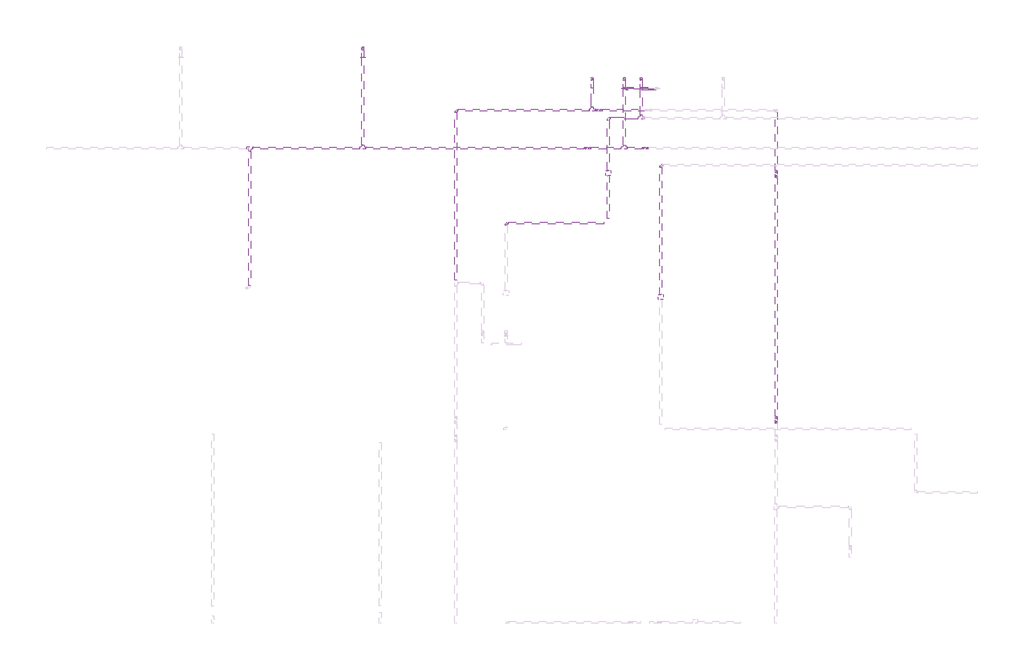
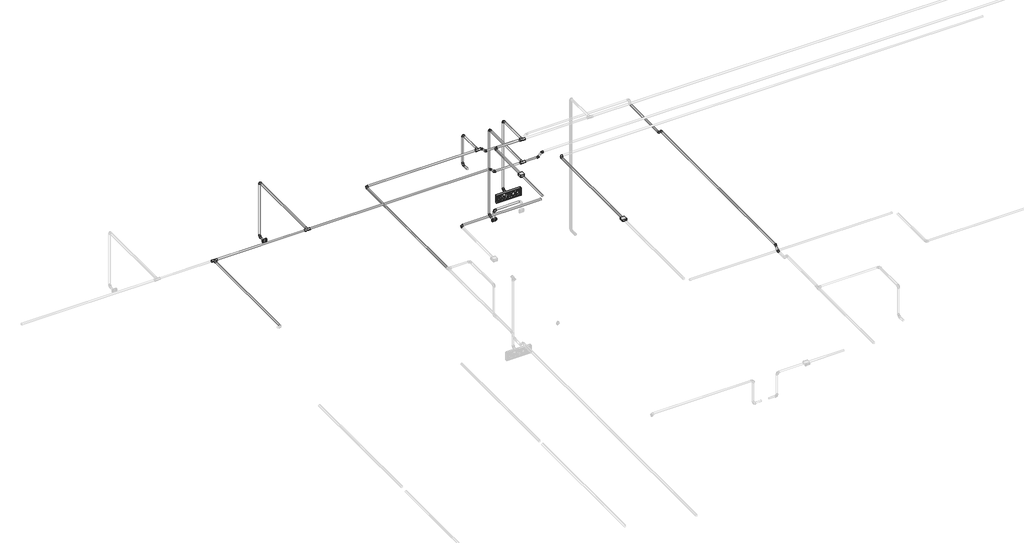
# One storey, part 39 of 40: 35 cable carrier segments, 28 cable carrier fittings, 3 alarms, 2 electric appliances.
"""IFC4 building model written with IfcOpenShell, lengths in millimetres."""

from ifc_helpers import new_model, si_unit, point, frame, frame_2d, origin, place, context, project, spatial, circle_curve, trimmed, segment, composite_curve, outline, extrude, transform, mapped, element, save
from components import alarm_4b7e8fd8, alarm_a2247946, cable_carrier_fitting_69f1a801, cable_carrier_fitting_8122f9af, cable_carrier_fitting_5316ecec, cable_carrier_fitting_8fd13dfc, cable_carrier_fitting_b9f2e8c6, electric_appliance_5961a143

model = new_model("IFC4")

# Units and contexts
model_context = context("Model", 3, world=origin())
ifc_project = project(units=[si_unit("LENGTHUNIT", "METRE", prefix="MILLI")], contexts=[model_context])

# Site, building, storey
site = spatial("IfcSite", under=ifc_project)
building = spatial("IfcBuilding", under=site)
storey = spatial("IfcBuildingStorey", under=building, Name="1 этаж", Elevation=0.0)

# Alarms
placement = place(None, origin())
alarm_shape = alarm_4b7e8fd8(model_context)
element("IfcAlarm", 1, ObjectType="RBZ_Оповещатель_Световой_Рубеж_ОПОП1-R3(грань) : ОПОП 1-R3 \"Выход\"", at=placement, inside=storey, context=model_context, shape_type="MappedRepresentation", body=[
    mapped(alarm_shape, transform((11987.6759979, 21424.6370105, 2300.0), x_axis=(1.0, 0.0, 0.0), y_axis=(0.0, 0.0, 1.0), z_axis=(0.0, -1.0, 0.0))),
])
alarm_2_shape = alarm_a2247946(model_context)
element("IfcAlarm", 2, ObjectType="RBZ_ИзоляторШлейфа_Рубеж_ИЗ-1_прот.R3(плоскость) : ИЗ-1 прот.R3", at=placement, inside=storey, context=model_context, shape_type="MappedRepresentation", body=[
    mapped(alarm_2_shape, transform((11657.6759979, 20573.1370105, 3200.0), x_axis=(1.0, 0.0, 0.0), y_axis=(0.0, 1.0, 0.0), z_axis=(0.0, 0.0, 1.0))),
])
element("IfcAlarm", 3, ObjectType="RBZ_ИзоляторШлейфа_Рубеж_ИЗ-1_прот.R3(плоскость) : ИЗ-1 прот.R3", at=placement, inside=storey, context=model_context, shape_type="MappedRepresentation", body=[
    mapped(alarm_2_shape, transform((12182.1974646, 19334.6370105, 3200.0), x_axis=(1.0, 0.0, 0.0), y_axis=(0.0, 1.0, 0.0), z_axis=(0.0, 0.0, 1.0))),
])

# Cable carrier fittings
cable_carrier_fitting_shape = cable_carrier_fitting_69f1a801(model_context)
element("IfcCableCarrierFitting", 4, ObjectType="ADSK_Поворот_Минимальный размер : Неспецифицируемый", at=placement, inside=storey, context=model_context, shape_type="MappedRepresentation", body=[
    mapped(cable_carrier_fitting_shape, transform((11657.6759979, 21124.6367678, 3189.25), x_axis=(-1.0, 0.0, 0.0), y_axis=(0.0, -1.0, 0.0), z_axis=(0.0, 0.0, 1.0))),
])
element("IfcCableCarrierFitting", 5, ObjectType="ADSK_Поворот_Минимальный размер : Неспецифицируемый", at=placement, inside=storey, context=model_context, shape_type="MappedRepresentation", body=[
    mapped(cable_carrier_fitting_shape, transform((9207.6759979, 21828.8368161, 2488.0911237), x_axis=(0.0, 1.0, 0.0), y_axis=(0.0, 0.0, 1.0), z_axis=(1.0, 0.0, 0.0))),
])
element("IfcCableCarrierFitting", 6, ObjectType="ADSK_Поворот_Минимальный размер : Неспецифицируемый", at=placement, inside=storey, context=model_context, shape_type="MappedRepresentation", body=[
    mapped(cable_carrier_fitting_shape, transform((9207.6759979, 21828.8368161, 3187.0), x_axis=(0.0, 0.0, 1.0), y_axis=(0.0, -1.0, 0.0), z_axis=(1.0, 0.0, 0.0))),
])
element("IfcCableCarrierFitting", 7, ObjectType="ADSK_Поворот_Минимальный размер : Неспецифицируемый", at=placement, inside=storey, context=model_context, shape_type="MappedRepresentation", body=[
    mapped(cable_carrier_fitting_shape, transform((11987.6759979, 21521.8368161, 2300.0), x_axis=(0.0, 1.0, 0.0), y_axis=(0.0, 0.0, 1.0), z_axis=(1.0, 0.0, 0.0))),
])
element("IfcCableCarrierFitting", 8, ObjectType="ADSK_Поворот_Минимальный размер : Неспецифицируемый", at=placement, inside=storey, context=model_context, shape_type="MappedRepresentation", body=[
    mapped(cable_carrier_fitting_shape, transform((10136.5137184, 21203.5340481, 3180.0), x_axis=(-1.0, 0.0, 0.0), y_axis=(0.0, -1.0, 0.0), z_axis=(0.0, 0.0, 1.0))),
])
element("IfcCableCarrierFitting", 9, ObjectType="ADSK_Поворот_Минимальный размер : Неспецифицируемый", at=placement, inside=storey, context=model_context, shape_type="MappedRepresentation", body=[
    mapped(cable_carrier_fitting_shape, transform((11497.6759979, 21521.8368161, 2797.4861504), x_axis=(0.0, 1.0, 0.0), y_axis=(0.0, 0.0, 1.0), z_axis=(1.0, 0.0, 0.0))),
])
element("IfcCableCarrierFitting", 10, ObjectType="ADSK_Поворот_Минимальный размер : Неспецифицируемый", at=placement, inside=storey, context=model_context, shape_type="MappedRepresentation", body=[
    mapped(cable_carrier_fitting_shape, transform((11497.6759979, 21521.8368161, 3180.0), x_axis=(0.0, 0.0, 1.0), y_axis=(0.0, -1.0, 0.0), z_axis=(1.0, 0.0, 0.0))),
])
element("IfcCableCarrierFitting", 11, ObjectType="ADSK_Поворот_Минимальный размер : Неспецифицируемый", at=placement, inside=storey, context=model_context, shape_type="MappedRepresentation", body=[
    mapped(cable_carrier_fitting_shape, transform((11819.9739075, 21421.6370105, 2160.0), x_axis=(0.0, 0.0, 1.0), y_axis=(1.0, 0.0, 0.0), z_axis=(0.0, 1.0, 0.0))),
])
element("IfcCableCarrierFitting", 12, ObjectType="ADSK_Поворот_Минимальный размер : Неспецифицируемый", at=placement, inside=storey, context=model_context, shape_type="MappedRepresentation", body=[
    mapped(cable_carrier_fitting_shape, transform((11819.9739075, 21521.8368161, 2028.0911237), x_axis=(0.0, 1.0, 0.0), y_axis=(0.0, 0.0, 1.0), z_axis=(1.0, 0.0, 0.0))),
])
element("IfcCableCarrierFitting", 13, ObjectType="ADSK_Поворот_Минимальный размер : Неспецифицируемый", at=placement, inside=storey, context=model_context, shape_type="MappedRepresentation", body=[
    mapped(cable_carrier_fitting_shape, transform((11819.9739075, 21521.8368161, 3137.0), x_axis=(0.0, 0.0, 1.0), y_axis=(0.0, -1.0, 0.0), z_axis=(1.0, 0.0, 0.0))),
])
element("IfcCableCarrierFitting", 14, ObjectType="ADSK_Поворот_Минимальный размер : Неспецифицируемый", at=placement, inside=storey, context=model_context, shape_type="MappedRepresentation", body=[
    mapped(cable_carrier_fitting_shape, transform((11987.6759979, 21521.8368161, 3189.353876), x_axis=(0.0, 0.0, 1.0), y_axis=(0.0, -1.0, 0.0), z_axis=(1.0, 0.0, 0.0))),
])
cable_carrier_fitting_2_shape = cable_carrier_fitting_8122f9af(model_context)
element("IfcCableCarrierFitting", 15, ObjectType="ADSK_Поворот_Минимальный размер : Неспецифицируемый", at=placement, inside=storey, context=model_context, shape_type="MappedRepresentation", body=[
    mapped(cable_carrier_fitting_2_shape, transform((11541.1037266, 21203.5340481, 3180.0), x_axis=(1.0, 0.0, 0.0), y_axis=(0.0, 0.0, -1.0), z_axis=(0.0, 1.0, 0.0))),
])
element("IfcCableCarrierFitting", 16, ObjectType="ADSK_Поворот_Минимальный размер : Неспецифицируемый", at=placement, inside=storey, context=model_context, shape_type="MappedRepresentation", body=[
    mapped(cable_carrier_fitting_2_shape, transform((11591.1037266, 21203.5340481, 3130.0), x_axis=(0.7071067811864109, 0.0, -0.7071067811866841), y_axis=(0.7071067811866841, 0.0, 0.7071067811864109), z_axis=(0.0, -1.0, 0.0))),
])
element("IfcCableCarrierFitting", 17, ObjectType="ADSK_Поворот_Минимальный размер : Неспецифицируемый", at=placement, inside=storey, context=model_context, shape_type="MappedRepresentation", body=[
    mapped(cable_carrier_fitting_2_shape, transform((13336.5137184, 20588.0647393, 3130.0), x_axis=(0.0, -1.0, 0.0), y_axis=(0.0, 0.0, 1.0), z_axis=(-1.0, 0.0, 0.0))),
])
element("IfcCableCarrierFitting", 18, ObjectType="ADSK_Поворот_Минимальный размер : Неспецифицируемый", at=placement, inside=storey, context=model_context, shape_type="MappedRepresentation", body=[
    mapped(cable_carrier_fitting_2_shape, transform((13336.5137184, 18081.2092818, 3130.0), x_axis=(0.0, -0.7071067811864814, -0.7071067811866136), y_axis=(0.0, -0.7071067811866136, 0.7071067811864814), z_axis=(-1.0, 0.0, 0.0))),
])
element("IfcCableCarrierFitting", 19, ObjectType="ADSK_Поворот_Минимальный размер : Неспецифицируемый", at=placement, inside=storey, context=model_context, shape_type="MappedRepresentation", body=[
    mapped(cable_carrier_fitting_2_shape, transform((11477.6759979, 20824.6370105, 3137.0), x_axis=(0.707106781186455, 0.0, -0.7071067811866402), y_axis=(0.7071067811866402, 0.0, 0.707106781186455), z_axis=(0.0, -1.0, 0.0))),
])
element("IfcCableCarrierFitting", 20, ObjectType="ADSK_Поворот_Минимальный размер : Неспецифицируемый", at=placement, inside=storey, context=model_context, shape_type="MappedRepresentation", body=[
    mapped(cable_carrier_fitting_2_shape, transform((12007.6759979, 20824.6370105, 3137.0), x_axis=(1.0, 0.0, 0.0), y_axis=(0.0, 0.0, 1.0), z_axis=(0.0, -1.0, 0.0))),
])
element("IfcCableCarrierFitting", 21, ObjectType="ADSK_Поворот_Минимальный размер : Неспецифицируемый", at=placement, inside=storey, context=model_context, shape_type="MappedRepresentation", body=[
    mapped(cable_carrier_fitting_2_shape, transform((11427.6759979, 20824.6370105, 3187.0), x_axis=(-0.7071067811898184, 0.0, 0.7071067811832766), y_axis=(-0.7071067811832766, 0.0, -0.7071067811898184), z_axis=(0.0, -1.0, 0.0))),
])
element("IfcCableCarrierFitting", 22, ObjectType="ADSK_Поворот_Минимальный размер : Неспецифицируемый", at=placement, inside=storey, context=model_context, shape_type="MappedRepresentation", body=[
    mapped(cable_carrier_fitting_2_shape, transform((13336.5137184, 18131.2092818, 3180.0), x_axis=(0.0, 0.707106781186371, 0.7071067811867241), y_axis=(0.0, 0.7071067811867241, -0.707106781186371), z_axis=(-1.0, 0.0, 0.0))),
])
element("IfcCableCarrierFitting", 23, ObjectType="ADSK_Поворот_Минимальный размер : Неспецифицируемый", at=placement, inside=storey, context=model_context, shape_type="MappedRepresentation", body=[
    mapped(cable_carrier_fitting_2_shape, transform((13336.5137184, 20538.0647393, 3180.0), x_axis=(0.0, -0.7071067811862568, 0.7071067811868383), y_axis=(0.0, -0.7071067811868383, -0.7071067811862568), z_axis=(1.0, 0.0, 0.0))),
])
element("IfcCableCarrierFitting", 24, ObjectType="ADSK_Поворот_Минимальный размер : Неспецифицируемый", at=placement, inside=storey, context=model_context, shape_type="MappedRepresentation", body=[
    mapped(cable_carrier_fitting_2_shape, transform((12057.6759979, 20824.6370105, 3187.0), x_axis=(0.707106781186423, 0.0, 0.7071067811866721), y_axis=(0.7071067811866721, 0.0, -0.707106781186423), z_axis=(0.0, 1.0, 0.0))),
])
cable_carrier_fitting_3_shape = cable_carrier_fitting_5316ecec(model_context)
element("IfcCableCarrierFitting", 25, ObjectType="ADSK_Поворот_Минимальный размер : Неспецифицируемый", at=placement, inside=storey, context=model_context, shape_type="MappedRepresentation", body=[
    mapped(cable_carrier_fitting_3_shape, transform((10637.6759514, 20074.6370107, 3189.3), x_axis=(-0.9999999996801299, 0.0, 2.5293086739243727e-05), y_axis=(0.0, -1.0, 1.7463441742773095e-12), z_axis=(2.529308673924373e-05, 1.7463441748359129e-12, 0.99999999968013))),
])
cable_carrier_fitting_4_shape = cable_carrier_fitting_8fd13dfc(model_context)
element("IfcCableCarrierFitting", 26, ObjectType="ADSK_Тройник : ПВХ", at=placement, inside=storey, context=model_context, shape_type="MappedRepresentation", body=[
    mapped(cable_carrier_fitting_4_shape, transform((11987.6759979, 21124.6367649, 3189.353876), x_axis=(-1.0, 0.0, 0.0), y_axis=(0.0, -1.0, 0.0), z_axis=(0.0, 0.0, 1.0))),
])
element("IfcCableCarrierFitting", 27, ObjectType="ADSK_Тройник : ПВХ", at=placement, inside=storey, context=model_context, shape_type="MappedRepresentation", body=[
    mapped(cable_carrier_fitting_4_shape, transform((8077.6759979, 20824.6370105, 3187.0), x_axis=(1.0, 0.0, 0.0), y_axis=(0.0, 1.0, 0.0), z_axis=(0.0, 0.0, 1.0))),
])
element("IfcCableCarrierFitting", 28, ObjectType="ADSK_Тройник : ПВХ", at=placement, inside=storey, context=model_context, shape_type="MappedRepresentation", body=[
    mapped(cable_carrier_fitting_4_shape, transform((9207.6759979, 20824.6370105, 3187.0), x_axis=(-1.0, 0.0, 0.0), y_axis=(0.0, -1.0, 0.0), z_axis=(0.0, 0.0, 1.0))),
])
element("IfcCableCarrierFitting", 29, ObjectType="ADSK_Тройник : ПВХ", at=placement, inside=storey, context=model_context, shape_type="MappedRepresentation", body=[
    mapped(cable_carrier_fitting_4_shape, transform((11497.6759979, 21203.5340481, 3180.0), x_axis=(-1.0, 0.0, 0.0), y_axis=(0.0, -1.0, 0.0), z_axis=(0.0, 0.0, 1.0))),
])
element("IfcCableCarrierFitting", 30, ObjectType="ADSK_Тройник : ПВХ", at=placement, inside=storey, context=model_context, shape_type="MappedRepresentation", body=[
    mapped(cable_carrier_fitting_4_shape, transform((11819.9739075, 20824.6370105, 3137.0), x_axis=(-1.0, 0.0, 0.0), y_axis=(0.0, -1.0, 0.0), z_axis=(0.0, 0.0, 1.0))),
])
cable_carrier_fitting_5_shape = cable_carrier_fitting_b9f2e8c6(model_context)
element("IfcCableCarrierFitting", 31, ObjectType="ADSK_Поворот_Минимальный размер : Неспецифицируемый", at=placement, inside=storey, context=model_context, shape_type="MappedRepresentation", body=[
    mapped(cable_carrier_fitting_5_shape, transform((12182.1974646, 20654.6370125, 3189.25), x_axis=(-0.9999999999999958, 9.254156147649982e-08, 0.0), y_axis=(-9.254156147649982e-08, -0.9999999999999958, 0.0), z_axis=(0.0, 0.0, 1.0))),
])

# Cable carrier segments
element("IfcCableCarrierSegment", 32, ObjectType="Гофрированная труба", at=placement, inside=storey, context=model_context, shape_type="SweptSolid", body=[
    extrude(outline(composite_curve([segment(trimmed(circle_curve(frame_2d((3189.25, 12182.1974646)), 10.0), [point((3189.25, 12172.1974646))], [point((3179.25, 12182.1974646))], False, "CARTESIAN"), True, "CONTINUOUS"), segment(trimmed(circle_curve(frame_2d((3189.25, 12182.1974646)), 10.0), [point((3179.25, 12182.1974646))], [point((3189.25, 12192.1974646))], False, "CARTESIAN"), True, "CONTINUOUS"), segment(trimmed(circle_curve(frame_2d((3189.25, 12182.1974646)), 10.0), [point((3189.25, 12192.1974646))], [point((3199.25, 12182.1974646))], False, "CARTESIAN"), True, "CONTINUOUS"), segment(trimmed(circle_curve(frame_2d((3189.25, 12182.1974646)), 10.0), [point((3199.25, 12182.1974646))], [point((3189.25, 12172.1974646))], False, "CARTESIAN"), True, "CONTINUOUS")], self_intersect=False)), frame((0.0, 19360.6370105, 0.0), z_axis=(0.0, 1.0, 0.0), x_axis=(0.0, 0.0, 1.0)), (0.0, 0.0, 1.0), 1273.0000001),
])
element("IfcCableCarrierSegment", 33, ObjectType="Гофрированная труба", at=placement, inside=storey, context=model_context, shape_type="SweptSolid", body=[
    extrude(outline(composite_curve([segment(trimmed(circle_curve(frame_2d((3189.25, 11657.6759979)), 10.0), [point((3189.25, 11667.6759979))], [point((3199.25, 11657.6759979))], False, "CARTESIAN"), True, "CONTINUOUS"), segment(trimmed(circle_curve(frame_2d((3189.25, 11657.6759979)), 10.0), [point((3199.25, 11657.6759979))], [point((3189.25, 11647.6759979))], False, "CARTESIAN"), True, "CONTINUOUS"), segment(trimmed(circle_curve(frame_2d((3189.25, 11657.6759979)), 10.0), [point((3189.25, 11647.6759979))], [point((3179.25, 11657.6759979))], False, "CARTESIAN"), True, "CONTINUOUS"), segment(trimmed(circle_curve(frame_2d((3189.25, 11657.6759979)), 10.0), [point((3179.25, 11657.6759979))], [point((3189.25, 11667.6759979))], False, "CARTESIAN"), True, "CONTINUOUS")], self_intersect=False)), frame((0.0, 20599.1370105, 0.0), z_axis=(0.0, 1.0, 0.0), x_axis=(0.0, 0.0, 1.0)), (0.0, 0.0, 1.0), 504.4997573),
])
element("IfcCableCarrierSegment", 34, ObjectType="Гофрированная труба", at=placement, inside=storey, context=model_context, shape_type="SweptSolid", body=[
    extrude(outline(composite_curve([segment(trimmed(circle_curve(frame_2d((3189.25, 11657.6759979)), 10.0), [point((3189.25, 11667.6759979))], [point((3199.25, 11657.6759979))], False, "CARTESIAN"), True, "CONTINUOUS"), segment(trimmed(circle_curve(frame_2d((3189.25, 11657.6759979)), 10.0), [point((3199.25, 11657.6759979))], [point((3189.25, 11647.6759979))], False, "CARTESIAN"), True, "CONTINUOUS"), segment(trimmed(circle_curve(frame_2d((3189.25, 11657.6759979)), 10.0), [point((3189.25, 11647.6759979))], [point((3179.25, 11657.6759979))], False, "CARTESIAN"), True, "CONTINUOUS"), segment(trimmed(circle_curve(frame_2d((3189.25, 11657.6759979)), 10.0), [point((3179.25, 11657.6759979))], [point((3189.25, 11667.6759979))], False, "CARTESIAN"), True, "CONTINUOUS")], self_intersect=False)), frame((0.0, 20121.1370105, 0.0), z_axis=(0.0, 1.0, 0.0), x_axis=(0.0, 0.0, 1.0)), (0.0, 0.0, 1.0), 426.0),
])
element("IfcCableCarrierSegment", 35, ObjectType="Гофрированная труба", at=placement, inside=storey, context=model_context, shape_type="SweptSolid", body=[
    extrude(outline(composite_curve([segment(trimmed(circle_curve(frame_2d((21124.6367649, 3189.353876)), 10.0), [point((21114.6367649, 3189.353876))], [point((21124.6367649, 3199.353876))], False, "CARTESIAN"), True, "CONTINUOUS"), segment(trimmed(circle_curve(frame_2d((21124.6367649, 3189.353876)), 10.0), [point((21124.6367649, 3199.353876))], [point((21134.6367649, 3189.353876))], False, "CARTESIAN"), True, "CONTINUOUS"), segment(trimmed(circle_curve(frame_2d((21124.6367649, 3189.353876)), 10.0), [point((21134.6367649, 3189.353876))], [point((21124.6367649, 3179.353876))], False, "CARTESIAN"), True, "CONTINUOUS"), segment(trimmed(circle_curve(frame_2d((21124.6367649, 3189.353876)), 10.0), [point((21124.6367649, 3179.353876))], [point((21114.6367649, 3189.353876))], False, "CARTESIAN"), True, "CONTINUOUS")], self_intersect=False)), frame((11678.6759979, 0.0, 0.0), z_axis=(1.0, 0.0, 0.0), x_axis=(0.0, 1.0, 0.0)), (0.0, 0.0, 1.0), 279.0),
])
element("IfcCableCarrierSegment", 36, ObjectType="Гофрированная труба", at=placement, inside=storey, context=model_context, shape_type="SweptSolid", body=[
    extrude(outline(composite_curve([segment(trimmed(circle_curve(frame_2d((2e-07, -10.0)), 10.0000002), [point((-10.0, -10.0))], [point((0.0, 0.0))], False, "CARTESIAN"), True, "CONTINUOUS"), segment(trimmed(circle_curve(frame_2d((2e-07, -10.0)), 10.0), [point((0.0, 0.0))], [point((10.0, -10.0))], False, "CARTESIAN"), True, "CONTINUOUS"), segment(trimmed(circle_curve(frame_2d((2e-07, -10.0)), 9.9999998), [point((10.0, -10.0))], [point((0.0, -20.0))], False, "CARTESIAN"), True, "CONTINUOUS"), segment(trimmed(circle_curve(frame_2d((2e-07, -10.0)), 10.0), [point((0.0, -20.0))], [point((-10.0, -10.0))], False, "CARTESIAN"), True, "CONTINUOUS")], self_intersect=False)), frame((11611.175745, 20074.6370105, 3179.2753772), z_axis=(-0.99999999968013, 0.0, 2.5293086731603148e-05), x_axis=(0.0, 1.0, 0.0)), (0.0, 0.0, 1.0), 952.5000455),
])
element("IfcCableCarrierSegment", 37, ObjectType="Гофрированная труба", at=placement, inside=storey, context=model_context, shape_type="SweptSolid", body=[
    extrude(outline(composite_curve([segment(trimmed(circle_curve(frame_2d((3187.0, 8077.6759979)), 10.0), [point((3187.0, 8067.6759979))], [point((3177.0, 8077.6759979))], False, "CARTESIAN"), True, "CONTINUOUS"), segment(trimmed(circle_curve(frame_2d((3187.0, 8077.6759979)), 10.0), [point((3177.0, 8077.6759979))], [point((3187.0, 8087.6759979))], False, "CARTESIAN"), True, "CONTINUOUS"), segment(trimmed(circle_curve(frame_2d((3187.0, 8077.6759979)), 10.0), [point((3187.0, 8087.6759979))], [point((3197.0, 8077.6759979))], False, "CARTESIAN"), True, "CONTINUOUS"), segment(trimmed(circle_curve(frame_2d((3187.0, 8077.6759979)), 10.0), [point((3197.0, 8077.6759979))], [point((3187.0, 8067.6759979))], False, "CARTESIAN"), True, "CONTINUOUS")], self_intersect=False)), frame((0.0, 19447.2217133, 0.0), z_axis=(0.0, 1.0, 0.0), x_axis=(0.0, 0.0, 1.0)), (0.0, 0.0, 1.0), 1347.4152973),
])
element("IfcCableCarrierSegment", 38, ObjectType="Гофрированная труба", at=placement, inside=storey, context=model_context, shape_type="SweptSolid", body=[
    extrude(outline(composite_curve([segment(trimmed(circle_curve(frame_2d((3187.0, 9207.6759979)), 10.0), [point((3187.0, 9217.6759979))], [point((3197.0, 9207.6759979))], False, "CARTESIAN"), True, "CONTINUOUS"), segment(trimmed(circle_curve(frame_2d((3187.0, 9207.6759979)), 10.0), [point((3197.0, 9207.6759979))], [point((3187.0, 9197.6759979))], False, "CARTESIAN"), True, "CONTINUOUS"), segment(trimmed(circle_curve(frame_2d((3187.0, 9207.6759979)), 10.0), [point((3187.0, 9197.6759979))], [point((3177.0, 9207.6759979))], False, "CARTESIAN"), True, "CONTINUOUS"), segment(trimmed(circle_curve(frame_2d((3187.0, 9207.6759979)), 10.0), [point((3177.0, 9207.6759979))], [point((3187.0, 9217.6759979))], False, "CARTESIAN"), True, "CONTINUOUS")], self_intersect=False)), frame((0.0, 20854.6370105, 0.0), z_axis=(0.0, 1.0, 0.0), x_axis=(0.0, 0.0, 1.0)), (0.0, 0.0, 1.0), 953.1998056),
])
element("IfcCableCarrierSegment", 39, ObjectType="Гофрированная труба", at=placement, inside=storey, context=model_context, shape_type="SweptSolid", body=[
    extrude(outline(composite_curve([segment(trimmed(circle_curve(frame_2d((2488.0911237, 9207.6759979)), 10.0), [point((2488.0911237, 9217.6759979))], [point((2498.0911237, 9207.6759979))], False, "CARTESIAN"), True, "CONTINUOUS"), segment(trimmed(circle_curve(frame_2d((2488.0911237, 9207.6759979)), 10.0), [point((2498.0911237, 9207.6759979))], [point((2488.0911237, 9197.6759979))], False, "CARTESIAN"), True, "CONTINUOUS"), segment(trimmed(circle_curve(frame_2d((2488.0911237, 9207.6759979)), 10.0), [point((2488.0911237, 9197.6759979))], [point((2478.0911237, 9207.6759979))], False, "CARTESIAN"), True, "CONTINUOUS"), segment(trimmed(circle_curve(frame_2d((2488.0911237, 9207.6759979)), 10.0), [point((2478.0911237, 9207.6759979))], [point((2488.0911237, 9217.6759979))], False, "CARTESIAN"), True, "CONTINUOUS")], self_intersect=False)), frame((0.0, 21731.6370105, 0.0), z_axis=(0.0, 1.0, 0.0), x_axis=(0.0, 0.0, 1.0)), (0.0, 0.0, 1.0), 76.1998056),
])
element("IfcCableCarrierSegment", 40, ObjectType="Гофрированная труба", at=placement, inside=storey, context=model_context, shape_type="SweptSolid", body=[
    extrude(outline(composite_curve([segment(trimmed(circle_curve(frame_2d((9207.6759979, 21828.8368161)), 10.0), [point((9197.6759979, 21828.8368161))], [point((9207.6759979, 21838.8368161))], False, "CARTESIAN"), True, "CONTINUOUS"), segment(trimmed(circle_curve(frame_2d((9207.6759979, 21828.8368161)), 10.0), [point((9207.6759979, 21838.8368161))], [point((9217.6759979, 21828.8368161))], False, "CARTESIAN"), True, "CONTINUOUS"), segment(trimmed(circle_curve(frame_2d((9207.6759979, 21828.8368161)), 10.0), [point((9217.6759979, 21828.8368161))], [point((9207.6759979, 21818.8368161))], False, "CARTESIAN"), True, "CONTINUOUS"), segment(trimmed(circle_curve(frame_2d((9207.6759979, 21828.8368161)), 10.0), [point((9207.6759979, 21818.8368161))], [point((9197.6759979, 21828.8368161))], False, "CARTESIAN"), True, "CONTINUOUS")], self_intersect=False)), frame((0.0, 0.0, 2509.0911237), z_axis=(0.0, 0.0, 1.0), x_axis=(1.0, 0.0, 0.0)), (0.0, 0.0, 1.0), 656.9088763),
])
element("IfcCableCarrierSegment", 41, ObjectType="Гофрированная труба", at=placement, inside=storey, context=model_context, shape_type="SweptSolid", body=[
    extrude(outline(composite_curve([segment(trimmed(circle_curve(frame_2d((20824.6370105, 3187.0)), 10.0), [point((20814.6370105, 3187.0))], [point((20824.6370105, 3197.0))], False, "CARTESIAN"), True, "CONTINUOUS"), segment(trimmed(circle_curve(frame_2d((20824.6370105, 3187.0)), 10.0), [point((20824.6370105, 3197.0))], [point((20834.6370105, 3187.0))], False, "CARTESIAN"), True, "CONTINUOUS"), segment(trimmed(circle_curve(frame_2d((20824.6370105, 3187.0)), 10.0), [point((20834.6370105, 3187.0))], [point((20824.6370105, 3177.0))], False, "CARTESIAN"), True, "CONTINUOUS"), segment(trimmed(circle_curve(frame_2d((20824.6370105, 3187.0)), 10.0), [point((20824.6370105, 3177.0))], [point((20814.6370105, 3187.0))], False, "CARTESIAN"), True, "CONTINUOUS")], self_intersect=False)), frame((8107.6759979, 0.0, 0.0), z_axis=(1.0, 0.0, 0.0), x_axis=(0.0, 1.0, 0.0)), (0.0, 0.0, 1.0), 1070.0),
])
element("IfcCableCarrierSegment", 42, ObjectType="Гофрированная труба", at=placement, inside=storey, context=model_context, shape_type="SweptSolid", body=[
    extrude(outline(composite_curve([segment(trimmed(circle_curve(frame_2d((3189.353876, 11987.6759979)), 10.0), [point((3189.353876, 11977.6759979))], [point((3179.353876, 11987.6759979))], False, "CARTESIAN"), True, "CONTINUOUS"), segment(trimmed(circle_curve(frame_2d((3189.353876, 11987.6759979)), 10.0), [point((3179.353876, 11987.6759979))], [point((3189.353876, 11997.6759979))], False, "CARTESIAN"), True, "CONTINUOUS"), segment(trimmed(circle_curve(frame_2d((3189.353876, 11987.6759979)), 10.0), [point((3189.353876, 11997.6759979))], [point((3199.353876, 11987.6759979))], False, "CARTESIAN"), True, "CONTINUOUS"), segment(trimmed(circle_curve(frame_2d((3189.353876, 11987.6759979)), 10.0), [point((3199.353876, 11987.6759979))], [point((3189.353876, 11977.6759979))], False, "CARTESIAN"), True, "CONTINUOUS")], self_intersect=False)), frame((0.0, 21154.6367649, 0.0), z_axis=(0.0, 1.0, 0.0), x_axis=(0.0, 0.0, 1.0)), (0.0, 0.0, 1.0), 346.2000512),
])
element("IfcCableCarrierSegment", 43, ObjectType="Гофрированная труба", at=placement, inside=storey, context=model_context, shape_type="SweptSolid", body=[
    extrude(outline(composite_curve([segment(trimmed(circle_curve(frame_2d((2300.0, 11987.6759979)), 10.0), [point((2300.0, 11997.6759979))], [point((2310.0, 11987.6759979))], False, "CARTESIAN"), True, "CONTINUOUS"), segment(trimmed(circle_curve(frame_2d((2300.0, 11987.6759979)), 10.0), [point((2310.0, 11987.6759979))], [point((2300.0, 11977.6759979))], False, "CARTESIAN"), True, "CONTINUOUS"), segment(trimmed(circle_curve(frame_2d((2300.0, 11987.6759979)), 10.0), [point((2300.0, 11977.6759979))], [point((2290.0, 11987.6759979))], False, "CARTESIAN"), True, "CONTINUOUS"), segment(trimmed(circle_curve(frame_2d((2300.0, 11987.6759979)), 10.0), [point((2290.0, 11987.6759979))], [point((2300.0, 11997.6759979))], False, "CARTESIAN"), True, "CONTINUOUS")], self_intersect=False)), frame((0.0, 21424.6370105, 0.0), z_axis=(0.0, 1.0, 0.0), x_axis=(0.0, 0.0, 1.0)), (0.0, 0.0, 1.0), 76.1998056),
])
element("IfcCableCarrierSegment", 44, ObjectType="Гофрированная труба", at=placement, inside=storey, context=model_context, shape_type="SweptSolid", body=[
    extrude(outline(composite_curve([segment(trimmed(circle_curve(frame_2d((11987.6759979, 21521.8368161)), 10.0), [point((11977.6759979, 21521.8368161))], [point((11987.6759979, 21531.8368161))], False, "CARTESIAN"), True, "CONTINUOUS"), segment(trimmed(circle_curve(frame_2d((11987.6759979, 21521.8368161)), 10.0), [point((11987.6759979, 21531.8368161))], [point((11997.6759979, 21521.8368161))], False, "CARTESIAN"), True, "CONTINUOUS"), segment(trimmed(circle_curve(frame_2d((11987.6759979, 21521.8368161)), 10.0), [point((11997.6759979, 21521.8368161))], [point((11987.6759979, 21511.8368161))], False, "CARTESIAN"), True, "CONTINUOUS"), segment(trimmed(circle_curve(frame_2d((11987.6759979, 21521.8368161)), 10.0), [point((11987.6759979, 21511.8368161))], [point((11977.6759979, 21521.8368161))], False, "CARTESIAN"), True, "CONTINUOUS")], self_intersect=False)), frame((0.0, 0.0, 2321.0), z_axis=(0.0, 0.0, 1.0), x_axis=(1.0, 0.0, 0.0)), (0.0, 0.0, 1.0), 847.353876),
])
element("IfcCableCarrierSegment", 45, ObjectType="Гофрированная труба", at=placement, inside=storey, context=model_context, shape_type="SweptSolid", body=[
    extrude(outline(composite_curve([segment(trimmed(circle_curve(frame_2d((20824.6370105, 3137.0)), 10.0), [point((20814.6370105, 3137.0))], [point((20824.6370105, 3147.0))], False, "CARTESIAN"), True, "CONTINUOUS"), segment(trimmed(circle_curve(frame_2d((20824.6370105, 3137.0)), 10.0), [point((20824.6370105, 3147.0))], [point((20834.6370105, 3137.0))], False, "CARTESIAN"), True, "CONTINUOUS"), segment(trimmed(circle_curve(frame_2d((20824.6370105, 3137.0)), 10.0), [point((20834.6370105, 3137.0))], [point((20824.6370105, 3127.0))], False, "CARTESIAN"), True, "CONTINUOUS"), segment(trimmed(circle_curve(frame_2d((20824.6370105, 3137.0)), 10.0), [point((20824.6370105, 3127.0))], [point((20814.6370105, 3137.0))], False, "CARTESIAN"), True, "CONTINUOUS")], self_intersect=False)), frame((11849.9739075, 0.0, 0.0), z_axis=(1.0, 0.0, 0.0), x_axis=(0.0, 1.0, 0.0)), (0.0, 0.0, 1.0), 148.4178191),
])
element("IfcCableCarrierSegment", 46, ObjectType="Гофрированная труба", at=placement, inside=storey, context=model_context, shape_type="SweptSolid", body=[
    extrude(outline(composite_curve([segment(trimmed(circle_curve(frame_2d((3180.0, 10136.5137184)), 10.0), [point((3180.0, 10146.5137184))], [point((3190.0, 10136.5137184))], False, "CARTESIAN"), True, "CONTINUOUS"), segment(trimmed(circle_curve(frame_2d((3180.0, 10136.5137184)), 10.0), [point((3190.0, 10136.5137184))], [point((3180.0, 10126.5137184))], False, "CARTESIAN"), True, "CONTINUOUS"), segment(trimmed(circle_curve(frame_2d((3180.0, 10136.5137184)), 10.0), [point((3180.0, 10126.5137184))], [point((3170.0, 10136.5137184))], False, "CARTESIAN"), True, "CONTINUOUS"), segment(trimmed(circle_curve(frame_2d((3180.0, 10136.5137184)), 10.0), [point((3170.0, 10136.5137184))], [point((3180.0, 10146.5137184))], False, "CARTESIAN"), True, "CONTINUOUS")], self_intersect=False)), frame((0.0, 19504.6370105, 0.0), z_axis=(0.0, 1.0, 0.0), x_axis=(0.0, 0.0, 1.0)), (0.0, 0.0, 1.0), 1677.8970376),
])
element("IfcCableCarrierSegment", 47, ObjectType="Гофрированная труба", at=placement, inside=storey, context=model_context, shape_type="SweptSolid", body=[
    extrude(outline(composite_curve([segment(trimmed(circle_curve(frame_2d((21203.5340481, 3130.0)), 10.0), [point((21193.5340481, 3130.0))], [point((21203.5340481, 3140.0))], False, "CARTESIAN"), True, "CONTINUOUS"), segment(trimmed(circle_curve(frame_2d((21203.5340481, 3130.0)), 10.0), [point((21203.5340481, 3140.0))], [point((21213.5340481, 3130.0))], False, "CARTESIAN"), True, "CONTINUOUS"), segment(trimmed(circle_curve(frame_2d((21203.5340481, 3130.0)), 10.0), [point((21213.5340481, 3130.0))], [point((21203.5340481, 3120.0))], False, "CARTESIAN"), True, "CONTINUOUS"), segment(trimmed(circle_curve(frame_2d((21203.5340481, 3130.0)), 10.0), [point((21203.5340481, 3120.0))], [point((21193.5340481, 3130.0))], False, "CARTESIAN"), True, "CONTINUOUS")], self_intersect=False)), frame((11600.3879979, 0.0, 0.0), z_axis=(1.0, 0.0, 0.0), x_axis=(0.0, 1.0, 0.0)), (0.0, 0.0, 1.0), 429.4394838),
])
element("IfcCableCarrierSegment", 48, ObjectType="Гофрированная труба", at=placement, inside=storey, context=model_context, shape_type="SweptSolid", body=[
    extrude(outline(composite_curve([segment(trimmed(circle_curve(frame_2d((3180.0, 11497.6759979)), 10.0), [point((3180.0, 11507.6759979))], [point((3190.0, 11497.6759979))], False, "CARTESIAN"), True, "CONTINUOUS"), segment(trimmed(circle_curve(frame_2d((3180.0, 11497.6759979)), 10.0), [point((3190.0, 11497.6759979))], [point((3180.0, 11487.6759979))], False, "CARTESIAN"), True, "CONTINUOUS"), segment(trimmed(circle_curve(frame_2d((3180.0, 11497.6759979)), 10.0), [point((3180.0, 11487.6759979))], [point((3170.0, 11497.6759979))], False, "CARTESIAN"), True, "CONTINUOUS"), segment(trimmed(circle_curve(frame_2d((3180.0, 11497.6759979)), 10.0), [point((3170.0, 11497.6759979))], [point((3180.0, 11507.6759979))], False, "CARTESIAN"), True, "CONTINUOUS")], self_intersect=False)), frame((0.0, 21233.5340481, 0.0), z_axis=(0.0, 1.0, 0.0), x_axis=(0.0, 0.0, 1.0)), (0.0, 0.0, 1.0), 267.302768),
])
element("IfcCableCarrierSegment", 49, ObjectType="Гофрированная труба", at=placement, inside=storey, context=model_context, shape_type="SweptSolid", body=[
    extrude(outline(composite_curve([segment(trimmed(circle_curve(frame_2d((2797.4861504, 11497.6759979)), 10.0), [point((2797.4861504, 11507.6759979))], [point((2807.4861504, 11497.6759979))], False, "CARTESIAN"), True, "CONTINUOUS"), segment(trimmed(circle_curve(frame_2d((2797.4861504, 11497.6759979)), 10.0), [point((2807.4861504, 11497.6759979))], [point((2797.4861504, 11487.6759979))], False, "CARTESIAN"), True, "CONTINUOUS"), segment(trimmed(circle_curve(frame_2d((2797.4861504, 11497.6759979)), 10.0), [point((2797.4861504, 11487.6759979))], [point((2787.4861504, 11497.6759979))], False, "CARTESIAN"), True, "CONTINUOUS"), segment(trimmed(circle_curve(frame_2d((2797.4861504, 11497.6759979)), 10.0), [point((2787.4861504, 11497.6759979))], [point((2797.4861504, 11507.6759979))], False, "CARTESIAN"), True, "CONTINUOUS")], self_intersect=False)), frame((0.0, 21424.6370105, 0.0), z_axis=(0.0, 1.0, 0.0), x_axis=(0.0, 0.0, 1.0)), (0.0, 0.0, 1.0), 76.1998056),
])
element("IfcCableCarrierSegment", 50, ObjectType="Гофрированная труба", at=placement, inside=storey, context=model_context, shape_type="SweptSolid", body=[
    extrude(outline(composite_curve([segment(trimmed(circle_curve(frame_2d((11497.6759979, 21521.8368161)), 10.0), [point((11487.6759979, 21521.8368161))], [point((11497.6759979, 21531.8368161))], False, "CARTESIAN"), True, "CONTINUOUS"), segment(trimmed(circle_curve(frame_2d((11497.6759979, 21521.8368161)), 10.0), [point((11497.6759979, 21531.8368161))], [point((11507.6759979, 21521.8368161))], False, "CARTESIAN"), True, "CONTINUOUS"), segment(trimmed(circle_curve(frame_2d((11497.6759979, 21521.8368161)), 10.0), [point((11507.6759979, 21521.8368161))], [point((11497.6759979, 21511.8368161))], False, "CARTESIAN"), True, "CONTINUOUS"), segment(trimmed(circle_curve(frame_2d((11497.6759979, 21521.8368161)), 10.0), [point((11497.6759979, 21511.8368161))], [point((11487.6759979, 21521.8368161))], False, "CARTESIAN"), True, "CONTINUOUS")], self_intersect=False)), frame((0.0, 0.0, 2818.4861504), z_axis=(0.0, 0.0, 1.0), x_axis=(1.0, 0.0, 0.0)), (0.0, 0.0, 1.0), 340.5138496),
])
element("IfcCableCarrierSegment", 51, ObjectType="Гофрированная труба", at=placement, inside=storey, context=model_context, shape_type="SweptSolid", body=[
    extrude(outline(composite_curve([segment(trimmed(circle_curve(frame_2d((21203.5340481, 3180.0)), 10.0), [point((21193.5340481, 3180.0))], [point((21203.5340481, 3190.0))], False, "CARTESIAN"), True, "CONTINUOUS"), segment(trimmed(circle_curve(frame_2d((21203.5340481, 3180.0)), 10.0), [point((21203.5340481, 3190.0))], [point((21213.5340481, 3180.0))], False, "CARTESIAN"), True, "CONTINUOUS"), segment(trimmed(circle_curve(frame_2d((21203.5340481, 3180.0)), 10.0), [point((21213.5340481, 3180.0))], [point((21203.5340481, 3170.0))], False, "CARTESIAN"), True, "CONTINUOUS"), segment(trimmed(circle_curve(frame_2d((21203.5340481, 3180.0)), 10.0), [point((21203.5340481, 3170.0))], [point((21193.5340481, 3180.0))], False, "CARTESIAN"), True, "CONTINUOUS")], self_intersect=False)), frame((10157.5137184, 0.0, 0.0), z_axis=(1.0, 0.0, 0.0), x_axis=(0.0, 1.0, 0.0)), (0.0, 0.0, 1.0), 1310.1622795),
])
element("IfcCableCarrierSegment", 52, ObjectType="Гофрированная труба", at=placement, inside=storey, context=model_context, shape_type="SweptSolid", body=[
    extrude(outline(composite_curve([segment(trimmed(circle_curve(frame_2d((3130.0, 13336.5137184)), 10.0), [point((3130.0, 13346.5137184))], [point((3140.0, 13336.5137184))], False, "CARTESIAN"), True, "CONTINUOUS"), segment(trimmed(circle_curve(frame_2d((3130.0, 13336.5137184)), 10.0), [point((3140.0, 13336.5137184))], [point((3130.0, 13326.5137184))], False, "CARTESIAN"), True, "CONTINUOUS"), segment(trimmed(circle_curve(frame_2d((3130.0, 13336.5137184)), 10.0), [point((3130.0, 13326.5137184))], [point((3120.0, 13336.5137184))], False, "CARTESIAN"), True, "CONTINUOUS"), segment(trimmed(circle_curve(frame_2d((3130.0, 13336.5137184)), 10.0), [point((3120.0, 13336.5137184))], [point((3130.0, 13346.5137184))], False, "CARTESIAN"), True, "CONTINUOUS")], self_intersect=False)), frame((0.0, 20597.3490105, 0.0), z_axis=(0.0, 1.0, 0.0), x_axis=(0.0, 0.0, 1.0)), (0.0, 0.0, 1.0), 585.1850376),
])
element("IfcCableCarrierSegment", 53, ObjectType="Гофрированная труба", at=placement, inside=storey, context=model_context, shape_type="SweptSolid", body=[
    extrude(outline(composite_curve([segment(trimmed(circle_curve(frame_2d((0.0, 10.0)), 10.0), [point((-10.0, 10.0))], [point((0.0, 20.0))], False, "CARTESIAN"), True, "CONTINUOUS"), segment(trimmed(circle_curve(frame_2d((0.0, 10.0)), 10.0), [point((0.0, 20.0))], [point((10.0, 10.0))], False, "CARTESIAN"), True, "CONTINUOUS"), segment(trimmed(circle_curve(frame_2d((0.0, 10.0)), 10.0), [point((10.0, 10.0))], [point((0.0, 0.0))], False, "CARTESIAN"), True, "CONTINUOUS"), segment(trimmed(circle_curve(frame_2d((0.0, 10.0)), 10.0), [point((0.0, 0.0))], [point((-10.0, 10.0))], False, "CARTESIAN"), True, "CONTINUOUS")], self_intersect=False)), frame((11527.6759979, 21203.5340481, 3170.0), z_axis=(1.0, 0.0, 1.3102692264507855e-11), x_axis=(0.0, 1.0, 0.0)), (0.0, 0.0, 1.0), 4.1434575),
])
element("IfcCableCarrierSegment", 54, ObjectType="Гофрированная труба", at=placement, inside=storey, context=model_context, shape_type="SweptSolid", body=[
    extrude(outline(composite_curve([segment(trimmed(circle_curve(frame_2d((0.0, -10.0)), 10.0), [point((0.0, -20.0))], [point((-10.0000001, -10.0))], False, "CARTESIAN"), True, "CONTINUOUS"), segment(trimmed(circle_curve(frame_2d((0.0, -10.0)), 10.0), [point((-10.0000001, -10.0))], [point((0.0, 0.0))], False, "CARTESIAN"), True, "CONTINUOUS"), segment(trimmed(circle_curve(frame_2d((0.0, -10.0)), 10.0), [point((0.0, 0.0))], [point((10.0, -10.0))], False, "CARTESIAN"), True, "CONTINUOUS"), segment(trimmed(circle_curve(frame_2d((0.0, -10.0)), 10.0), [point((10.0, -10.0))], [point((0.0, -20.0))], False, "CARTESIAN"), True, "CONTINUOUS")], self_intersect=False)), frame((11584.5387555, 21213.5340481, 3136.5649712), z_axis=(-0.7071067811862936, 0.0, 0.7071067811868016), x_axis=(0.7071067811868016, 0.0, 0.7071067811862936)), (0.0, 0.0, 1.0), 52.1421356),
])
element("IfcCableCarrierSegment", 55, ObjectType="Гофрированная труба", at=placement, inside=storey, context=model_context, shape_type="SweptSolid", body=[
    extrude(outline(composite_curve([segment(trimmed(circle_curve(frame_2d((0.0, 10.0000001)), 10.0), [point((-10.0, 10.0000001))], [point((0.0, 20.0))], False, "CARTESIAN"), True, "CONTINUOUS"), segment(trimmed(circle_curve(frame_2d((0.0, 10.0000001)), 10.0), [point((0.0, 20.0))], [point((10.0, 10.0000001))], False, "CARTESIAN"), True, "CONTINUOUS"), segment(trimmed(circle_curve(frame_2d((0.0, 10.0000001)), 10.0), [point((10.0, 10.0000001))], [point((0.0, 0.0))], False, "CARTESIAN"), True, "CONTINUOUS"), segment(trimmed(circle_curve(frame_2d((0.0, 10.0000001)), 10.0), [point((0.0, 0.0))], [point((-10.0, 10.0000001))], False, "CARTESIAN"), True, "CONTINUOUS")], self_intersect=False)), frame((13336.5137184, 20574.4287003, 3129.4939033), z_axis=(0.0, -0.7071067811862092, 0.707106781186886), x_axis=(1.0, 0.0, 0.0)), (0.0, 0.0, 1.0), 52.1421356),
])
element("IfcCableCarrierSegment", 56, ObjectType="Гофрированная труба", at=placement, inside=storey, context=model_context, shape_type="SweptSolid", body=[
    extrude(outline(composite_curve([segment(trimmed(circle_curve(frame_2d((3180.0, 13336.5137184)), 10.0), [point((3180.0, 13346.5137184))], [point((3190.0, 13336.5137184))], False, "CARTESIAN"), True, "CONTINUOUS"), segment(trimmed(circle_curve(frame_2d((3180.0, 13336.5137184)), 10.0), [point((3190.0, 13336.5137184))], [point((3180.0, 13326.5137184))], False, "CARTESIAN"), True, "CONTINUOUS"), segment(trimmed(circle_curve(frame_2d((3180.0, 13336.5137184)), 10.0), [point((3180.0, 13326.5137184))], [point((3170.0, 13336.5137184))], False, "CARTESIAN"), True, "CONTINUOUS"), segment(trimmed(circle_curve(frame_2d((3180.0, 13336.5137184)), 10.0), [point((3170.0, 13336.5137184))], [point((3180.0, 13346.5137184))], False, "CARTESIAN"), True, "CONTINUOUS")], self_intersect=False)), frame((0.0, 18140.493553, 0.0), z_axis=(0.0, 1.0, 0.0), x_axis=(0.0, 0.0, 1.0)), (0.0, 0.0, 1.0), 2388.286915),
])
element("IfcCableCarrierSegment", 57, ObjectType="Гофрированная труба", at=placement, inside=storey, context=model_context, shape_type="SweptSolid", body=[
    extrude(outline(composite_curve([segment(trimmed(circle_curve(frame_2d((0.0, -10.0000001)), 10.0), [point((-10.0, -10.0000001))], [point((0.0, 0.0))], False, "CARTESIAN"), True, "CONTINUOUS"), segment(trimmed(circle_curve(frame_2d((0.0, -10.0000001)), 10.0), [point((0.0, 0.0))], [point((10.0, -10.0000001))], False, "CARTESIAN"), True, "CONTINUOUS"), segment(trimmed(circle_curve(frame_2d((0.0, -10.0000001)), 10.0), [point((10.0, -10.0000001))], [point((0.0, -20.0))], False, "CARTESIAN"), True, "CONTINUOUS"), segment(trimmed(circle_curve(frame_2d((0.0, -10.0000001)), 10.0), [point((0.0, -20.0))], [point((-10.0, -10.0000001))], False, "CARTESIAN"), True, "CONTINUOUS")], self_intersect=False)), frame((13336.5137184, 18094.8453207, 3129.4939033), z_axis=(0.0, 0.7071067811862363, 0.7071067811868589), x_axis=(1.0, 0.0, 0.0)), (0.0, 0.0, 1.0), 52.1421356),
])
element("IfcCableCarrierSegment", 58, ObjectType="Гофрированная труба", at=placement, inside=storey, context=model_context, shape_type="SweptSolid", body=[
    extrude(outline(composite_curve([segment(trimmed(circle_curve(frame_2d((21421.6370105, 2160.0)), 10.0), [point((21411.6370105, 2160.0))], [point((21421.6370105, 2170.0))], False, "CARTESIAN"), True, "CONTINUOUS"), segment(trimmed(circle_curve(frame_2d((21421.6370105, 2160.0)), 10.0), [point((21421.6370105, 2170.0))], [point((21431.6370105, 2160.0))], False, "CARTESIAN"), True, "CONTINUOUS"), segment(trimmed(circle_curve(frame_2d((21421.6370105, 2160.0)), 10.0), [point((21431.6370105, 2160.0))], [point((21421.6370105, 2150.0))], False, "CARTESIAN"), True, "CONTINUOUS"), segment(trimmed(circle_curve(frame_2d((21421.6370105, 2160.0)), 10.0), [point((21421.6370105, 2150.0))], [point((21411.6370105, 2160.0))], False, "CARTESIAN"), True, "CONTINUOUS")], self_intersect=False)), frame((11840.9739075, 0.0, 0.0), z_axis=(1.0, 0.0, 0.0), x_axis=(0.0, 1.0, 0.0)), (0.0, 0.0, 1.0), 287.8005877),
])
element("IfcCableCarrierSegment", 59, ObjectType="Гофрированная труба", at=placement, inside=storey, context=model_context, shape_type="SweptSolid", body=[
    extrude(outline(composite_curve([segment(trimmed(circle_curve(frame_2d((11819.9739075, 21421.6370105)), 10.0), [point((11809.9739075, 21421.6370105))], [point((11819.9739075, 21431.6370105))], False, "CARTESIAN"), True, "CONTINUOUS"), segment(trimmed(circle_curve(frame_2d((11819.9739075, 21421.6370105)), 10.0), [point((11819.9739075, 21431.6370105))], [point((11829.9739075, 21421.6370105))], False, "CARTESIAN"), True, "CONTINUOUS"), segment(trimmed(circle_curve(frame_2d((11819.9739075, 21421.6370105)), 10.0), [point((11829.9739075, 21421.6370105))], [point((11819.9739075, 21411.6370105))], False, "CARTESIAN"), True, "CONTINUOUS"), segment(trimmed(circle_curve(frame_2d((11819.9739075, 21421.6370105)), 10.0), [point((11819.9739075, 21411.6370105))], [point((11809.9739075, 21421.6370105))], False, "CARTESIAN"), True, "CONTINUOUS")], self_intersect=False)), frame((0.0, 0.0, 2057.1207114), z_axis=(0.0, 0.0, 1.0), x_axis=(1.0, 0.0, 0.0)), (0.0, 0.0, 1.0), 81.8792886),
])
element("IfcCableCarrierSegment", 60, ObjectType="Гофрированная труба", at=placement, inside=storey, context=model_context, shape_type="SweptSolid", body=[
    extrude(outline(composite_curve([segment(trimmed(circle_curve(frame_2d((3137.0, 11819.9739075)), 10.0), [point((3137.0, 11809.9739075))], [point((3127.0, 11819.9739075))], False, "CARTESIAN"), True, "CONTINUOUS"), segment(trimmed(circle_curve(frame_2d((3137.0, 11819.9739075)), 10.0), [point((3127.0, 11819.9739075))], [point((3137.0, 11829.9739075))], False, "CARTESIAN"), True, "CONTINUOUS"), segment(trimmed(circle_curve(frame_2d((3137.0, 11819.9739075)), 10.0), [point((3137.0, 11829.9739075))], [point((3147.0, 11819.9739075))], False, "CARTESIAN"), True, "CONTINUOUS"), segment(trimmed(circle_curve(frame_2d((3137.0, 11819.9739075)), 10.0), [point((3147.0, 11819.9739075))], [point((3137.0, 11809.9739075))], False, "CARTESIAN"), True, "CONTINUOUS")], self_intersect=False)), frame((0.0, 20854.6370105, 0.0), z_axis=(0.0, 1.0, 0.0), x_axis=(0.0, 0.0, 1.0)), (0.0, 0.0, 1.0), 646.1998056),
])
element("IfcCableCarrierSegment", 61, ObjectType="Гофрированная труба", at=placement, inside=storey, context=model_context, shape_type="SweptSolid", body=[
    extrude(outline(composite_curve([segment(trimmed(circle_curve(frame_2d((2028.0911237, 11819.9739075)), 10.0), [point((2028.0911237, 11829.9739075))], [point((2038.0911237, 11819.9739075))], False, "CARTESIAN"), True, "CONTINUOUS"), segment(trimmed(circle_curve(frame_2d((2028.0911237, 11819.9739075)), 10.0), [point((2038.0911237, 11819.9739075))], [point((2028.0911237, 11809.9739075))], False, "CARTESIAN"), True, "CONTINUOUS"), segment(trimmed(circle_curve(frame_2d((2028.0911237, 11819.9739075)), 10.0), [point((2028.0911237, 11809.9739075))], [point((2018.0911237, 11819.9739075))], False, "CARTESIAN"), True, "CONTINUOUS"), segment(trimmed(circle_curve(frame_2d((2028.0911237, 11819.9739075)), 10.0), [point((2018.0911237, 11819.9739075))], [point((2028.0911237, 11829.9739075))], False, "CARTESIAN"), True, "CONTINUOUS")], self_intersect=False)), frame((0.0, 21424.6370105, 0.0), z_axis=(0.0, 1.0, 0.0), x_axis=(0.0, 0.0, 1.0)), (0.0, 0.0, 1.0), 76.1998056),
])
element("IfcCableCarrierSegment", 62, ObjectType="Гофрированная труба", at=placement, inside=storey, context=model_context, shape_type="SweptSolid", body=[
    extrude(outline(composite_curve([segment(trimmed(circle_curve(frame_2d((11819.9739075, 21521.8368161)), 10.0), [point((11809.9739075, 21521.8368161))], [point((11819.9739075, 21531.8368161))], False, "CARTESIAN"), True, "CONTINUOUS"), segment(trimmed(circle_curve(frame_2d((11819.9739075, 21521.8368161)), 10.0), [point((11819.9739075, 21531.8368161))], [point((11829.9739075, 21521.8368161))], False, "CARTESIAN"), True, "CONTINUOUS"), segment(trimmed(circle_curve(frame_2d((11819.9739075, 21521.8368161)), 10.0), [point((11829.9739075, 21521.8368161))], [point((11819.9739075, 21511.8368161))], False, "CARTESIAN"), True, "CONTINUOUS"), segment(trimmed(circle_curve(frame_2d((11819.9739075, 21521.8368161)), 10.0), [point((11819.9739075, 21511.8368161))], [point((11809.9739075, 21521.8368161))], False, "CARTESIAN"), True, "CONTINUOUS")], self_intersect=False)), frame((0.0, 0.0, 2049.0911237), z_axis=(0.0, 0.0, 1.0), x_axis=(1.0, 0.0, 0.0)), (0.0, 0.0, 1.0), 1066.9088763),
])
element("IfcCableCarrierSegment", 63, ObjectType="Гофрированная труба", at=placement, inside=storey, context=model_context, shape_type="SweptSolid", body=[
    extrude(outline(composite_curve([segment(trimmed(circle_curve(frame_2d((20824.6370105, 3187.0)), 10.0), [point((20834.6370105, 3187.0))], [point((20824.6370105, 3177.0))], False, "CARTESIAN"), True, "CONTINUOUS"), segment(trimmed(circle_curve(frame_2d((20824.6370105, 3187.0)), 10.0), [point((20824.6370105, 3177.0))], [point((20814.6370105, 3187.0))], False, "CARTESIAN"), True, "CONTINUOUS"), segment(trimmed(circle_curve(frame_2d((20824.6370105, 3187.0)), 10.0), [point((20814.6370105, 3187.0))], [point((20824.6370105, 3197.0))], False, "CARTESIAN"), True, "CONTINUOUS"), segment(trimmed(circle_curve(frame_2d((20824.6370105, 3187.0)), 10.0), [point((20824.6370105, 3197.0))], [point((20834.6370105, 3187.0))], False, "CARTESIAN"), True, "CONTINUOUS")], self_intersect=False)), frame((9237.6759979, 0.0, 0.0), z_axis=(1.0, 0.0, 0.0), x_axis=(0.0, 1.0, 0.0)), (0.0, 0.0, 1.0), 2180.7157288),
])
element("IfcCableCarrierSegment", 64, ObjectType="Гофрированная труба", at=placement, inside=storey, context=model_context, shape_type="SweptSolid", body=[
    extrude(outline(composite_curve([segment(trimmed(circle_curve(frame_2d((0.0, -10.0)), 10.0), [point((0.0, -20.0))], [point((-10.0000001, -10.0))], False, "CARTESIAN"), True, "CONTINUOUS"), segment(trimmed(circle_curve(frame_2d((0.0, -10.0)), 10.0), [point((-10.0000001, -10.0))], [point((0.0, 0.0))], False, "CARTESIAN"), True, "CONTINUOUS"), segment(trimmed(circle_curve(frame_2d((0.0, -10.0)), 10.0), [point((0.0, 0.0))], [point((10.0, -10.0))], False, "CARTESIAN"), True, "CONTINUOUS"), segment(trimmed(circle_curve(frame_2d((0.0, -10.0)), 10.0), [point((10.0, -10.0))], [point((0.0, -20.0))], False, "CARTESIAN"), True, "CONTINUOUS")], self_intersect=False)), frame((11471.1110267, 20834.6370105, 3143.5649712), z_axis=(-0.7071067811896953, 0.0, 0.7071067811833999), x_axis=(0.7071067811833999, 0.0, 0.7071067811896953)), (0.0, 0.0, 1.0), 52.1421356),
])
element("IfcCableCarrierSegment", 65, ObjectType="Гофрированная труба", at=placement, inside=storey, context=model_context, shape_type="SweptSolid", body=[
    extrude(outline(composite_curve([segment(trimmed(circle_curve(frame_2d((0.0, 10.0)), 10.0), [point((0.0, 0.0))], [point((-10.0000001, 10.0))], False, "CARTESIAN"), True, "CONTINUOUS"), segment(trimmed(circle_curve(frame_2d((0.0, 10.0)), 10.0), [point((-10.0000001, 10.0))], [point((0.0, 20.0))], False, "CARTESIAN"), True, "CONTINUOUS"), segment(trimmed(circle_curve(frame_2d((0.0, 10.0)), 10.0), [point((0.0, 20.0))], [point((10.0000001, 10.0))], False, "CARTESIAN"), True, "CONTINUOUS"), segment(trimmed(circle_curve(frame_2d((0.0, 10.0)), 10.0), [point((10.0000001, 10.0))], [point((0.0, 0.0))], False, "CARTESIAN"), True, "CONTINUOUS")], self_intersect=False)), frame((12014.2409691, 20814.6370105, 3143.5649712), z_axis=(0.707106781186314, 0.0, 0.7071067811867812), x_axis=(0.7071067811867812, 0.0, -0.707106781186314)), (0.0, 0.0, 1.0), 52.1421356),
])
element("IfcCableCarrierSegment", 66, ObjectType="Гофрированная труба", at=placement, inside=storey, context=model_context, shape_type="SweptSolid", body=[
    extrude(outline(composite_curve([segment(trimmed(circle_curve(frame_2d((20824.6370105, 3137.0)), 10.0), [point((20814.6370105, 3137.0))], [point((20824.6370105, 3147.0))], False, "CARTESIAN"), True, "CONTINUOUS"), segment(trimmed(circle_curve(frame_2d((20824.6370105, 3137.0)), 10.0), [point((20824.6370105, 3147.0))], [point((20834.6370105, 3137.0))], False, "CARTESIAN"), True, "CONTINUOUS"), segment(trimmed(circle_curve(frame_2d((20824.6370105, 3137.0)), 10.0), [point((20834.6370105, 3137.0))], [point((20824.6370105, 3127.0))], False, "CARTESIAN"), True, "CONTINUOUS"), segment(trimmed(circle_curve(frame_2d((20824.6370105, 3137.0)), 10.0), [point((20824.6370105, 3127.0))], [point((20814.6370105, 3137.0))], False, "CARTESIAN"), True, "CONTINUOUS")], self_intersect=False)), frame((11486.9602691, 0.0, 0.0), z_axis=(1.0, 0.0, 0.0), x_axis=(0.0, 1.0, 0.0)), (0.0, 0.0, 1.0), 303.0136384),
])

# Electric appliances
electric_appliance_shape = electric_appliance_5961a143(model_context)
element("IfcElectricAppliance", 67, ObjectType="RBZ_Извещатель_ОхранныйМагнитоуправляемый _Рубеж_ИО 10220-2(грань) : ИО 10220-2", at=placement, inside=storey, context=model_context, shape_type="MappedRepresentation", body=[
    mapped(electric_appliance_shape, transform((9207.6759979, 21731.6370105, 2500.0), x_axis=(-1.0, 0.0, 0.0), y_axis=(0.0, 0.0, -1.0), z_axis=(0.0, -1.0, 0.0))),
])
element("IfcElectricAppliance", 68, ObjectType="RBZ_Извещатель_ОхранныйМагнитоуправляемый _Рубеж_ИО 10220-2(грань) : ИО 10220-2", at=placement, inside=storey, context=model_context, shape_type="MappedRepresentation", body=[
    mapped(electric_appliance_shape, transform((11819.9739075, 21424.6370105, 2040.0), x_axis=(-1.0, 0.0, 0.0), y_axis=(0.0, 0.0, -1.0), z_axis=(0.0, -1.0, 0.0))),
])

save(model, "model.ifc")
